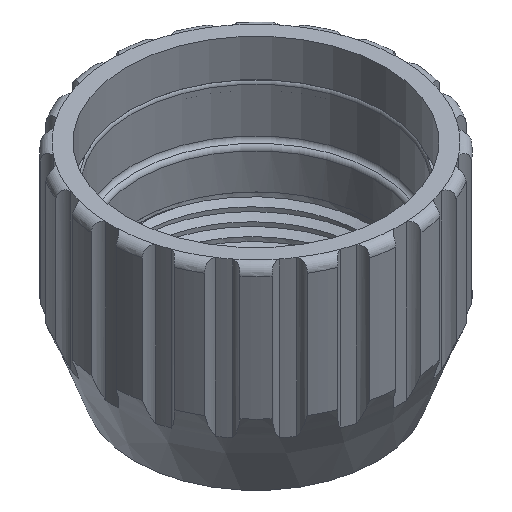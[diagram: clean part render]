
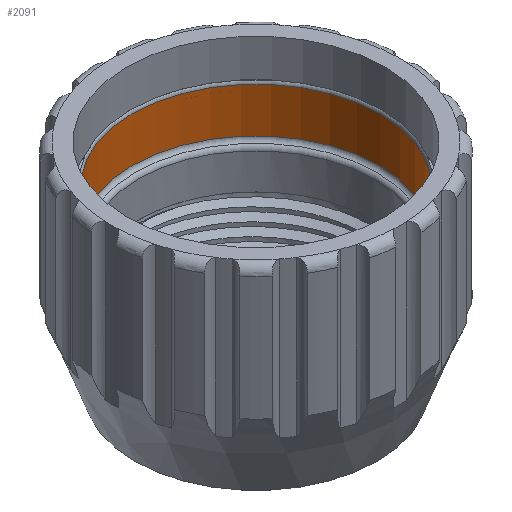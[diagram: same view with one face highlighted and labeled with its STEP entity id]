
A CAD part, isometric view. The second image highlights one B-rep face of the part: STEP entity #2091.
In plain terms, the highlighted cylindrical face has radius 14.35 mm (diameter 28.7 mm), a full revolution.
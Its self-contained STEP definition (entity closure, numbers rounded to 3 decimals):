
#166=FACE_OUTER_BOUND('',#295,.T.);
#295=EDGE_LOOP('',(#1814,#1815,#1816,#1817,#1818));
#523=CIRCLE('',#2342,14.35);
#524=CIRCLE('',#2343,14.35);
#525=CIRCLE('',#2345,14.35);
#625=LINE('',#4928,#719);
#719=VECTOR('',#2913,14.35);
#908=VERTEX_POINT('',#4920);
#909=VERTEX_POINT('',#4922);
#910=VERTEX_POINT('',#4926);
#1216=EDGE_CURVE('',#908,#909,#523,.T.);
#1217=EDGE_CURVE('',#909,#908,#524,.T.);
#1218=EDGE_CURVE('',#910,#910,#525,.T.);
#1219=EDGE_CURVE('',#910,#909,#625,.T.);
#1814=ORIENTED_EDGE('',*,*,#1218,.F.);
#1815=ORIENTED_EDGE('',*,*,#1219,.T.);
#1816=ORIENTED_EDGE('',*,*,#1216,.F.);
#1817=ORIENTED_EDGE('',*,*,#1217,.F.);
#1818=ORIENTED_EDGE('',*,*,#1219,.F.);
#1973=CYLINDRICAL_SURFACE('',#2344,14.35);
#2091=ADVANCED_FACE('',(#166),#1973,.F.);
#2342=AXIS2_PLACEMENT_3D('',#4923,#2905,#2906);
#2343=AXIS2_PLACEMENT_3D('',#4924,#2907,#2908);
#2344=AXIS2_PLACEMENT_3D('',#4925,#2909,#2910);
#2345=AXIS2_PLACEMENT_3D('',#4927,#2911,#2912);
#2905=DIRECTION('center_axis',(0.,0.,1.));
#2906=DIRECTION('ref_axis',(1.,0.,0.));
#2907=DIRECTION('center_axis',(0.,0.,1.));
#2908=DIRECTION('ref_axis',(1.,0.,0.));
#2909=DIRECTION('center_axis',(0.,0.,-1.));
#2910=DIRECTION('ref_axis',(-1.,0.,0.));
#2911=DIRECTION('center_axis',(0.,0.,-1.));
#2912=DIRECTION('ref_axis',(-1.,0.,0.));
#2913=DIRECTION('',(0.,0.,-1.));
#4920=CARTESIAN_POINT('',(-14.35,0.,14.468));
#4922=CARTESIAN_POINT('',(14.35,0.,14.468));
#4923=CARTESIAN_POINT('Origin',(0.,0.,14.468));
#4924=CARTESIAN_POINT('Origin',(0.,0.,14.468));
#4925=CARTESIAN_POINT('Origin',(0.,0.,24.));
#4926=CARTESIAN_POINT('',(14.35,0.,19.643));
#4927=CARTESIAN_POINT('Origin',(0.,0.,19.643));
#4928=CARTESIAN_POINT('',(14.35,0.,24.));
